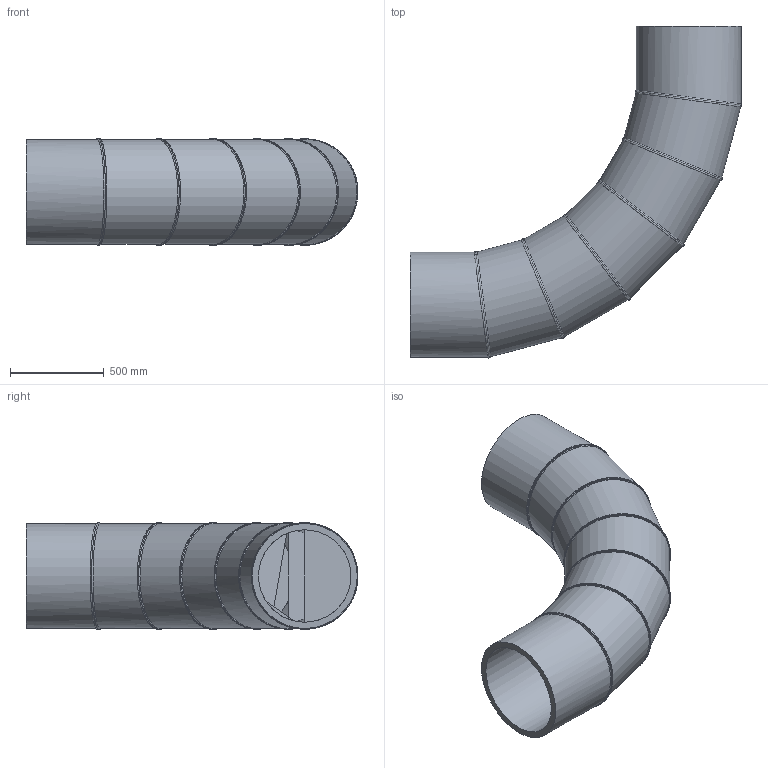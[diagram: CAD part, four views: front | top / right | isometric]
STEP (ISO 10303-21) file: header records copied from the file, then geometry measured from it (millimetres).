
FILE_DESCRIPTION(/* description */ ('Unknown'),/* implementation_level */ '2;1');
FILE_NAME(/* name */ 'Curva 90° a settore DE560 SDR17',/* time_stamp */ '2022-07-27T09:44:42+02:00',/* author */ ('Unknown'),/* organization */ ('Unknown'),/* preprocessor_version */ 'ST-DEVELOPER v18.102',/* originating_system */ 'Solid Edge',/* authorisation */ 'Unknown');
FILE_SCHEMA (('AUTOMOTIVE_DESIGN {1 0 10303 214 3 1 1}'));
Length unit declared in the file: millimetre
Products named in the file (3): Curva 90° a settore DE560 SDR17; Tubo x Gomito 90° DE560 SDR17 - 2; Tubo x Gomito 90° DE560 SDR17 - 1
Assembly tree (7 placements, depth 2):
  Curva 90° a settore DE560 SDR17
    Tubo x Gomito 90° DE560 SDR17 - 2  x5
    Tubo x Gomito 90° DE560 SDR17 - 1  x2
Bounding box: 1771.44 x 1771.44 x 567.99 mm (x, y, z)
Volume: 134732913.7 mm3; surface area: 8958317.4 mm2
Topology: 7 solids, 7 shells, 64 faces, 143 edges, 93 vertices
Faces by surface type: cylinder 38, plane 14, bspline 12
Full cylindrical faces by diameter (mm): 493.6 x7, 560 x7
Entity records: 3500 total; most frequent: CARTESIAN_POINT 3077, DIRECTION 78, ORIENTED_EDGE 52, AXIS2_PLACEMENT_3D 39, EDGE_LOOP 28, FACE_BOUND 28, EDGE_CURVE 26, VERTEX_POINT 20
